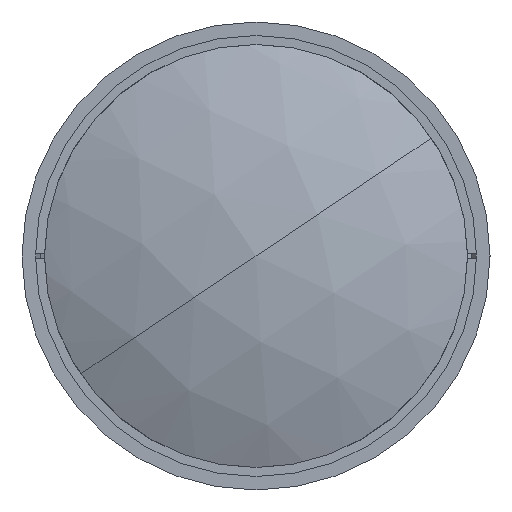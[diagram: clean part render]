
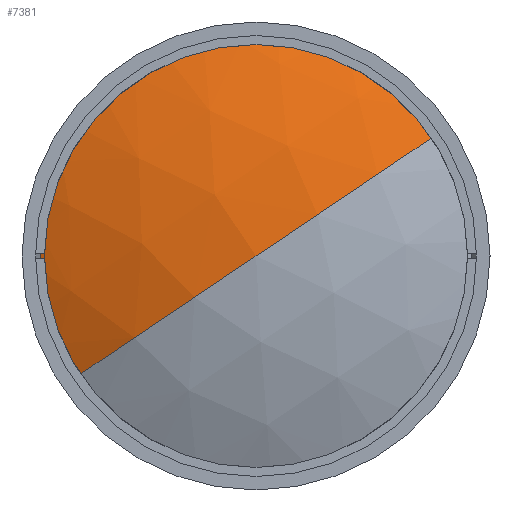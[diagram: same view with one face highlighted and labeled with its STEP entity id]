
A CAD part, left-side view. The second image highlights one B-rep face of the part: STEP entity #7381.
In plain terms, the highlighted spherical face has radius 114.92 mm.
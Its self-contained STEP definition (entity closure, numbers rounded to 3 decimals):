
#259 = VERTEX_POINT ( 'NONE', #11151 ) ;
#334 = FACE_OUTER_BOUND ( 'NONE', #14703, .T. ) ;
#721 = SPHERICAL_SURFACE ( 'NONE', #14334, 114.92 ) ;
#1474 = ORIENTED_EDGE ( 'NONE', *, *, #8830, .T. ) ;
#1858 = DIRECTION ( 'NONE',  ( 0., 0.558, 0.83 ) ) ;
#2049 = EDGE_CURVE ( 'NONE', #259, #5933, #15775, .T. ) ;
#3946 = DIRECTION ( 'NONE',  ( 0., 0.558, 0.83 ) ) ;
#4280 = ORIENTED_EDGE ( 'NONE', *, *, #2049, .T. ) ;
#5933 = VERTEX_POINT ( 'NONE', #15493 ) ;
#5998 = CIRCLE ( 'NONE', #10883, 114.92 ) ;
#6380 = CARTESIAN_POINT ( 'NONE',  ( 116.92, 0., 0. ) ) ;
#7100 = ORIENTED_EDGE ( 'NONE', *, *, #14861, .F. ) ;
#7381 = ADVANCED_FACE ( 'NONE', ( #334 ), #721, .T. ) ;
#7697 = DIRECTION ( 'NONE',  ( 0., 0.83, -0.558 ) ) ;
#8575 = CIRCLE ( 'NONE', #15731, 114.92 ) ;
#8830 = EDGE_CURVE ( 'NONE', #5933, #11624, #5998, .T. ) ;
#9455 = CARTESIAN_POINT ( 'NONE',  ( 116.92, 0., 0. ) ) ;
#9732 = CARTESIAN_POINT ( 'NONE',  ( 2., 0., 0. ) ) ;
#10226 = AXIS2_PLACEMENT_3D ( 'NONE', #11528, #11517, #11512 ) ;
#10883 = AXIS2_PLACEMENT_3D ( 'NONE', #11744, #3946, #13009 ) ;
#10996 = DIRECTION ( 'NONE',  ( 0., -0.83, 0.558 ) ) ;
#11151 = CARTESIAN_POINT ( 'NONE',  ( 12.504, -39.828, 26.79 ) ) ;
#11512 = DIRECTION ( 'NONE',  ( 0., 0.558, 0.83 ) ) ;
#11517 = DIRECTION ( 'NONE',  ( -1., 0., 0. ) ) ;
#11528 = CARTESIAN_POINT ( 'NONE',  ( 12.504, 0., 0. ) ) ;
#11624 = VERTEX_POINT ( 'NONE', #9732 ) ;
#11744 = CARTESIAN_POINT ( 'NONE',  ( 116.92, 0., 0. ) ) ;
#13009 = DIRECTION ( 'NONE',  ( 0., -0.83, 0.558 ) ) ;
#14334 = AXIS2_PLACEMENT_3D ( 'NONE', #9455, #1858, #10996 ) ;
#14703 = EDGE_LOOP ( 'NONE', ( #4280, #1474, #7100 ) ) ;
#14861 = EDGE_CURVE ( 'NONE', #259, #11624, #8575, .T. ) ;
#15329 = DIRECTION ( 'NONE',  ( 0., -0.558, -0.83 ) ) ;
#15493 = CARTESIAN_POINT ( 'NONE',  ( 12.504, 39.828, -26.79 ) ) ;
#15731 = AXIS2_PLACEMENT_3D ( 'NONE', #6380, #15329, #7697 ) ;
#15775 = CIRCLE ( 'NONE', #10226, 48. ) ;
